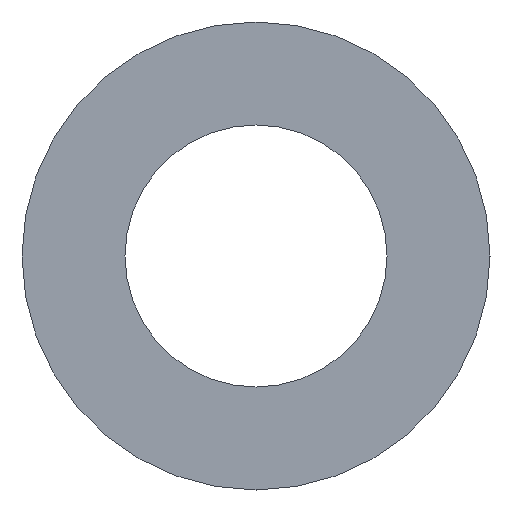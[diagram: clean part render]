
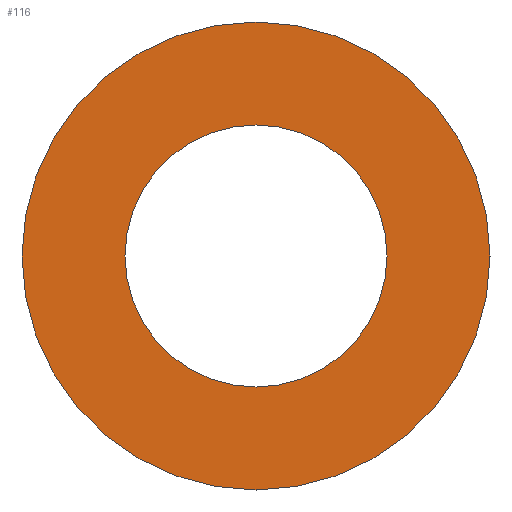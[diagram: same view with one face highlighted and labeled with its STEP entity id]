
A CAD part, front view. The second image highlights one B-rep face of the part: STEP entity #116.
In plain terms, the highlighted planar face has unit normal (0, -1, 0).
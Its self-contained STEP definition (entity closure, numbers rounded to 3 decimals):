
#4 = CARTESIAN_POINT ( 'NONE',  ( 0., -19., 0. ) ) ;
#51 = EDGE_LOOP ( 'NONE', ( #224, #1054 ) ) ;
#116 = ADVANCED_FACE ( 'NONE', ( #205, #465 ), #3146, .F. ) ;
#205 = FACE_BOUND ( 'NONE', #2984, .T. ) ;
#224 = ORIENTED_EDGE ( 'NONE', *, *, #1837, .T. ) ;
#269 = DIRECTION ( 'NONE',  ( 0., -1., 0. ) ) ;
#350 = CARTESIAN_POINT ( 'NONE',  ( 0., -19., 21. ) ) ;
#465 = FACE_OUTER_BOUND ( 'NONE', #51, .T. ) ;
#671 = DIRECTION ( 'NONE',  ( 0., 0., -1. ) ) ;
#696 = CIRCLE ( 'NONE', #2507, 21. ) ;
#724 = DIRECTION ( 'NONE',  ( 0., 0., -1. ) ) ;
#1054 = ORIENTED_EDGE ( 'NONE', *, *, #2161, .T. ) ;
#1188 = VERTEX_POINT ( 'NONE', #1249 ) ;
#1249 = CARTESIAN_POINT ( 'NONE',  ( 0., -19., -37.5 ) ) ;
#1437 = CARTESIAN_POINT ( 'NONE',  ( 0., -19., 0. ) ) ;
#1485 = CARTESIAN_POINT ( 'NONE',  ( 0., -19., 0. ) ) ;
#1553 = CARTESIAN_POINT ( 'NONE',  ( 0., -19., 37.5 ) ) ;
#1584 = AXIS2_PLACEMENT_3D ( 'NONE', #1437, #3114, #2933 ) ;
#1608 = AXIS2_PLACEMENT_3D ( 'NONE', #350, #3412, #1733 ) ;
#1727 = EDGE_CURVE ( 'NONE', #3214, #1820, #696, .T. ) ;
#1733 = DIRECTION ( 'NONE',  ( 0., 0., 1. ) ) ;
#1820 = VERTEX_POINT ( 'NONE', #2136 ) ;
#1837 = EDGE_CURVE ( 'NONE', #1188, #2961, #2019, .T. ) ;
#2019 = CIRCLE ( 'NONE', #3073, 37.5 ) ;
#2136 = CARTESIAN_POINT ( 'NONE',  ( 0., -19., -21. ) ) ;
#2161 = EDGE_CURVE ( 'NONE', #2961, #1188, #2732, .T. ) ;
#2247 = DIRECTION ( 'NONE',  ( 0., 0., -1. ) ) ;
#2398 = DIRECTION ( 'NONE',  ( 0., -1., 0. ) ) ;
#2422 = CARTESIAN_POINT ( 'NONE',  ( 0., -19., 0. ) ) ;
#2507 = AXIS2_PLACEMENT_3D ( 'NONE', #1485, #3451, #671 ) ;
#2563 = CARTESIAN_POINT ( 'NONE',  ( 0., -19., 21. ) ) ;
#2722 = CIRCLE ( 'NONE', #3166, 21. ) ;
#2732 = CIRCLE ( 'NONE', #1584, 37.5 ) ;
#2933 = DIRECTION ( 'NONE',  ( 0., 0., -1. ) ) ;
#2961 = VERTEX_POINT ( 'NONE', #1553 ) ;
#2984 = EDGE_LOOP ( 'NONE', ( #3245, #3561 ) ) ;
#3073 = AXIS2_PLACEMENT_3D ( 'NONE', #2422, #2398, #724 ) ;
#3114 = DIRECTION ( 'NONE',  ( 0., -1., 0. ) ) ;
#3127 = EDGE_CURVE ( 'NONE', #1820, #3214, #2722, .T. ) ;
#3146 = PLANE ( 'NONE',  #1608 ) ;
#3166 = AXIS2_PLACEMENT_3D ( 'NONE', #4, #269, #2247 ) ;
#3214 = VERTEX_POINT ( 'NONE', #2563 ) ;
#3245 = ORIENTED_EDGE ( 'NONE', *, *, #3127, .F. ) ;
#3412 = DIRECTION ( 'NONE',  ( 0., 1., 0. ) ) ;
#3451 = DIRECTION ( 'NONE',  ( 0., -1., 0. ) ) ;
#3561 = ORIENTED_EDGE ( 'NONE', *, *, #1727, .F. ) ;
